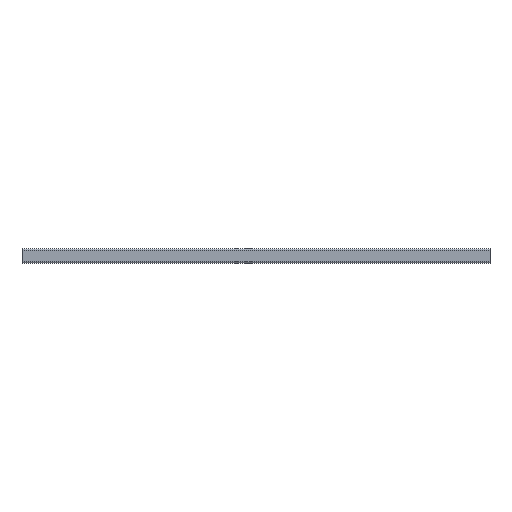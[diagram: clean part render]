
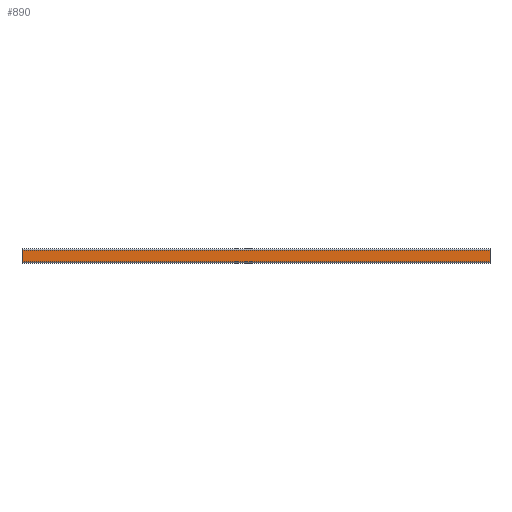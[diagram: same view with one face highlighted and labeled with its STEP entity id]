
A CAD part, top view. The second image highlights one B-rep face of the part: STEP entity #890.
In plain terms, the highlighted planar face has unit normal (0, 0, 1).
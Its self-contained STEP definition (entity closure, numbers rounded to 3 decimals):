
#248 = EDGE_CURVE ( 'NONE', #860, #625, #897, .T. ) ;
#287 = LINE ( 'NONE', #1243, #2677 ) ;
#402 = CARTESIAN_POINT ( 'NONE',  ( 1000., 12.5, 8. ) ) ;
#444 = VECTOR ( 'NONE', #2700, 1000. ) ;
#455 = VECTOR ( 'NONE', #2325, 1000. ) ;
#466 = CARTESIAN_POINT ( 'NONE',  ( 1000., 12.5, 8. ) ) ;
#536 = CARTESIAN_POINT ( 'NONE',  ( 0., 12.5, 8. ) ) ;
#569 = DIRECTION ( 'NONE',  ( -1., 0., 0. ) ) ;
#598 = CARTESIAN_POINT ( 'NONE',  ( 0., 12.5, 8. ) ) ;
#625 = VERTEX_POINT ( 'NONE', #2052 ) ;
#860 = VERTEX_POINT ( 'NONE', #1186 ) ;
#890 = ADVANCED_FACE ( 'NONE', ( #1134 ), #1597, .F. ) ;
#897 = LINE ( 'NONE', #402, #444 ) ;
#994 = AXIS2_PLACEMENT_3D ( 'NONE', #466, #1371, #2273 ) ;
#1008 = ORIENTED_EDGE ( 'NONE', *, *, #2569, .F. ) ;
#1134 = FACE_OUTER_BOUND ( 'NONE', #1162, .T. ) ;
#1162 = EDGE_LOOP ( 'NONE', ( #1429, #1008, #2774, #1190 ) ) ;
#1186 = CARTESIAN_POINT ( 'NONE',  ( 1000., 12.5, 8. ) ) ;
#1190 = ORIENTED_EDGE ( 'NONE', *, *, #1412, .T. ) ;
#1243 = CARTESIAN_POINT ( 'NONE',  ( 1000., 12.5, 8. ) ) ;
#1268 = LINE ( 'NONE', #536, #455 ) ;
#1330 = CARTESIAN_POINT ( 'NONE',  ( 0., -12.5, 8. ) ) ;
#1371 = DIRECTION ( 'NONE',  ( 0., 0., -1. ) ) ;
#1374 = VECTOR ( 'NONE', #2907, 1000. ) ;
#1412 = EDGE_CURVE ( 'NONE', #860, #2479, #287, .T. ) ;
#1429 = ORIENTED_EDGE ( 'NONE', *, *, #2384, .T. ) ;
#1597 = PLANE ( 'NONE',  #994 ) ;
#1722 = VERTEX_POINT ( 'NONE', #1330 ) ;
#1764 = LINE ( 'NONE', #2439, #1374 ) ;
#2052 = CARTESIAN_POINT ( 'NONE',  ( 1000., -12.5, 8. ) ) ;
#2273 = DIRECTION ( 'NONE',  ( 0., 1., 0. ) ) ;
#2325 = DIRECTION ( 'NONE',  ( 0., -1., 0. ) ) ;
#2384 = EDGE_CURVE ( 'NONE', #2479, #1722, #1268, .T. ) ;
#2439 = CARTESIAN_POINT ( 'NONE',  ( 1000., -12.5, 8. ) ) ;
#2479 = VERTEX_POINT ( 'NONE', #598 ) ;
#2569 = EDGE_CURVE ( 'NONE', #625, #1722, #1764, .T. ) ;
#2677 = VECTOR ( 'NONE', #569, 1000. ) ;
#2700 = DIRECTION ( 'NONE',  ( 0., -1., 0. ) ) ;
#2774 = ORIENTED_EDGE ( 'NONE', *, *, #248, .F. ) ;
#2907 = DIRECTION ( 'NONE',  ( -1., 0., 0. ) ) ;
